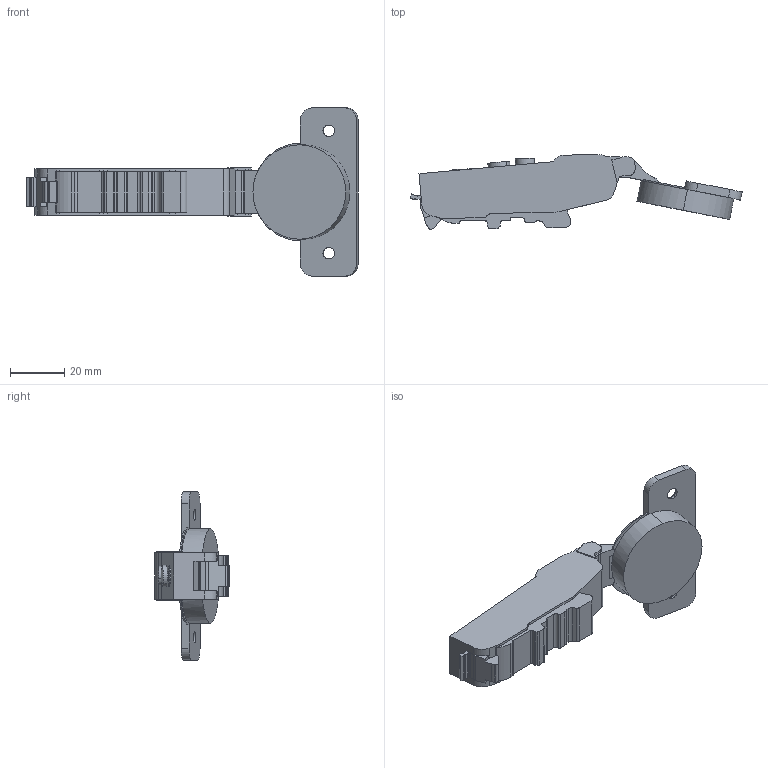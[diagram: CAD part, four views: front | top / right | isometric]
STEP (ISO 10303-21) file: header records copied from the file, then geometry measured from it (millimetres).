
FILE_DESCRIPTION (( 'STEP AP203' ), '1' );
FILE_NAME ('C81B8Q5FAB -DTC 3D open.STEP', '2024-11-29T08:47:20', ( '微软用户' ), ( '微软中国' ), 'SwSTEP 2.0', 'SolidWorks 2021', '' );
FILE_SCHEMA (( 'CONFIG_CONTROL_DESIGN' ));
Length unit declared in the file: millimetre
Products named in the file (1): C81B8Q5FAB -DTC 3D open
Bounding box: 122.29 x 27.6 x 62 mm (x, y, z)
Volume: 37047.5 mm3; surface area: 11642.1 mm2
Topology: 1 solids, 1 shells, 200 faces, 563 edges, 370 vertices
Faces by surface type: plane 93, cylinder 89, torus 12, cone 4, bspline 2
Entity records: 6605 total; most frequent: CARTESIAN_POINT 1205, DIRECTION 1149, ORIENTED_EDGE 1126, EDGE_CURVE 563, AXIS2_PLACEMENT_3D 406, VERTEX_POINT 370, VECTOR 337, LINE 337
